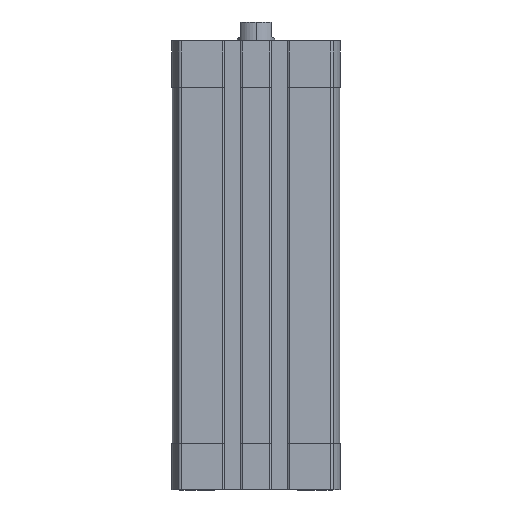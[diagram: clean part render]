
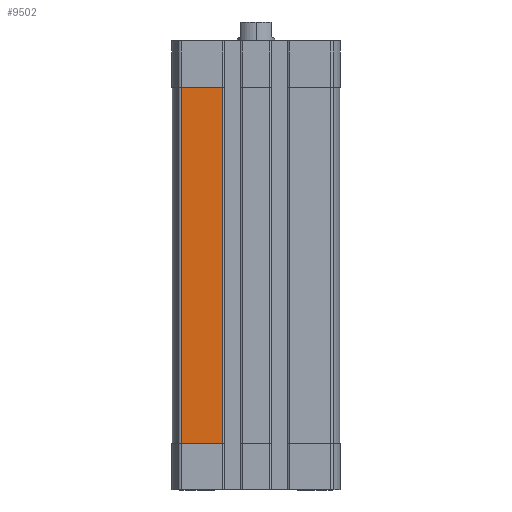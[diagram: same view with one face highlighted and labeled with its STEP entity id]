
A CAD part, left-side view. The second image highlights one B-rep face of the part: STEP entity #9502.
In plain terms, the highlighted planar face has unit normal (-1, 0, 0).
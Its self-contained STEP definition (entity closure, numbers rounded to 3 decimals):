
#88 = CARTESIAN_POINT ( 'NONE',  ( -27., 10.7, -130. ) ) ;
#516 = DIRECTION ( 'NONE',  ( 0., 0., -1. ) ) ;
#1641 = EDGE_CURVE ( 'NONE', #6045, #3489, #14895, .T. ) ;
#1674 = CARTESIAN_POINT ( 'NONE',  ( -27., 24.093, -15. ) ) ;
#1825 = EDGE_CURVE ( 'NONE', #9700, #8371, #15395, .T. ) ;
#2406 = VECTOR ( 'NONE', #2724, 1000. ) ;
#2724 = DIRECTION ( 'NONE',  ( 0., -1., 0. ) ) ;
#2954 = CARTESIAN_POINT ( 'NONE',  ( -27., 24.093, -130. ) ) ;
#2970 = PLANE ( 'NONE',  #13479 ) ;
#3489 = VERTEX_POINT ( 'NONE', #13551 ) ;
#4271 = EDGE_CURVE ( 'NONE', #3489, #9700, #13175, .T. ) ;
#4294 = CARTESIAN_POINT ( 'NONE',  ( -27., 0., -15. ) ) ;
#4710 = FACE_OUTER_BOUND ( 'NONE', #9038, .T. ) ;
#5094 = DIRECTION ( 'NONE',  ( 0., 0., 1. ) ) ;
#5484 = DIRECTION ( 'NONE',  ( -1., 0., 0. ) ) ;
#6045 = VERTEX_POINT ( 'NONE', #1674 ) ;
#6052 = VECTOR ( 'NONE', #5094, 1000. ) ;
#6695 = EDGE_CURVE ( 'NONE', #8371, #6045, #6969, .T. ) ;
#6969 = LINE ( 'NONE', #4294, #10208 ) ;
#8370 = CARTESIAN_POINT ( 'NONE',  ( -27., 10.7, -15. ) ) ;
#8371 = VERTEX_POINT ( 'NONE', #8370 ) ;
#8791 = VECTOR ( 'NONE', #516, 1000. ) ;
#8957 = CARTESIAN_POINT ( 'NONE',  ( -27., 24.093, -130. ) ) ;
#9038 = EDGE_LOOP ( 'NONE', ( #9070, #9482, #10018, #10523 ) ) ;
#9070 = ORIENTED_EDGE ( 'NONE', *, *, #4271, .T. ) ;
#9482 = ORIENTED_EDGE ( 'NONE', *, *, #1825, .T. ) ;
#9502 = ADVANCED_FACE ( 'NONE', ( #4710 ), #2970, .T. ) ;
#9655 = CARTESIAN_POINT ( 'NONE',  ( -27., 10.7, -130. ) ) ;
#9700 = VERTEX_POINT ( 'NONE', #9655 ) ;
#10018 = ORIENTED_EDGE ( 'NONE', *, *, #6695, .T. ) ;
#10208 = VECTOR ( 'NONE', #12676, 1000. ) ;
#10523 = ORIENTED_EDGE ( 'NONE', *, *, #1641, .T. ) ;
#12676 = DIRECTION ( 'NONE',  ( 0., 1., 0. ) ) ;
#13175 = LINE ( 'NONE', #8957, #2406 ) ;
#13479 = AXIS2_PLACEMENT_3D ( 'NONE', #14889, #5484, #13808 ) ;
#13551 = CARTESIAN_POINT ( 'NONE',  ( -27., 24.093, -130. ) ) ;
#13808 = DIRECTION ( 'NONE',  ( 0., 0., 1. ) ) ;
#14889 = CARTESIAN_POINT ( 'NONE',  ( -27., 24.093, -130. ) ) ;
#14895 = LINE ( 'NONE', #2954, #8791 ) ;
#15395 = LINE ( 'NONE', #88, #6052 ) ;
